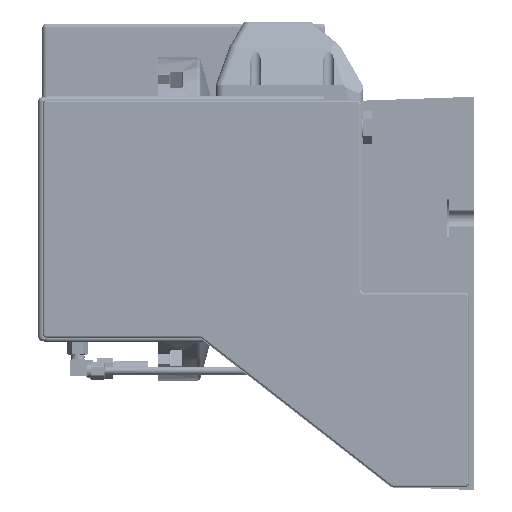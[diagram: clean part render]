
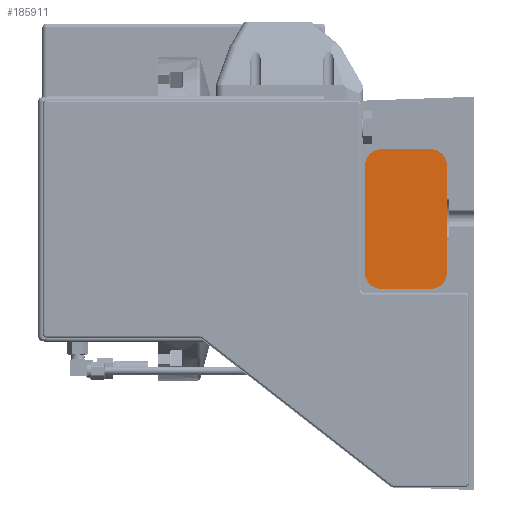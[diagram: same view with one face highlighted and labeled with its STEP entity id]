
A CAD part, left-side view. The second image highlights one B-rep face of the part: STEP entity #185911.
In plain terms, the highlighted planar face has unit normal (-1, 0, 0).
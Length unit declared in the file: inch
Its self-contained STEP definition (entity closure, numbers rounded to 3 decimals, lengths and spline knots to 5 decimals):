
#380 = AXIS2_PLACEMENT_3D ( 'NONE', #239387, #143289, #181561 ) ;
#2601 = VERTEX_POINT ( 'NONE', #134576 ) ;
#7344 = LINE ( 'NONE', #79947, #23149 ) ;
#17440 = DIRECTION ( 'NONE',  ( 0., 0., 1. ) ) ;
#18062 = DIRECTION ( 'NONE',  ( 0., 0., 1. ) ) ;
#18985 = FACE_OUTER_BOUND ( 'NONE', #129851, .T. ) ;
#22696 = EDGE_CURVE ( 'Defeatured_1_154+Defeatured_1_157+Defeatured_1_158+Defeatured_1_159', #168143, #240522, #41514, .T. ) ;
#23149 = VECTOR ( 'NONE', #178576, 39.37008 ) ;
#24886 = EDGE_CURVE ( 'Defeatured_1_157+Defeatured_1_160+Defeatured_1_156+Defeatured_1_155', #129715, #113461, #224940, .T. ) ;
#27447 = AXIS2_PLACEMENT_3D ( 'NONE', #108828, #184190, #182963 ) ;
#30796 = EDGE_CURVE ( 'Defeatured_1_157+Defeatured_1_158+Defeatured_1_154+Defeatured_1_153', #168143, #41462, #31749, .T. ) ;
#31749 = CIRCLE ( 'NONE', #232476, 0.5 ) ;
#36477 = CARTESIAN_POINT ( 'NONE',  ( -15.75, 1.31, 1.625 ) ) ;
#36494 = EDGE_CURVE ( 'Defeatured_1_156+Defeatured_1_157+Defeatured_1_160+Defeatured_1_161', #129715, #51300, #220821, .T. ) ;
#37114 = CARTESIAN_POINT ( 'NONE',  ( -15.75, 1.31, 2.125 ) ) ;
#40839 = AXIS2_PLACEMENT_3D ( 'NONE', #128340, #204705, #17440 ) ;
#41462 = VERTEX_POINT ( 'NONE', #37114 ) ;
#41514 = LINE ( 'NONE', #116601, #169406 ) ;
#51300 = VERTEX_POINT ( 'NONE', #223327 ) ;
#52222 = PLANE ( 'NONE',  #27447 ) ;
#53549 = EDGE_CURVE ( 'Defeatured_1_155+Defeatured_1_157+Defeatured_1_159+Defeatured_1_160', #2601, #113461, #7344, .T. ) ;
#57334 = EDGE_CURVE ( 'Defeatured_1_157+Defeatured_1_159+Defeatured_1_155+Defeatured_1_154', #2601, #240522, #131269, .T. ) ;
#58203 = VECTOR ( 'NONE', #74927, 39.37008 ) ;
#70798 = ORIENTED_EDGE ( 'NONE', *, *, #22696, .F. ) ;
#74621 = VECTOR ( 'NONE', #165304, 39.37008 ) ;
#74927 = DIRECTION ( 'NONE',  ( 0., 0., 1. ) ) ;
#79947 = CARTESIAN_POINT ( 'NONE',  ( -15.75, 3.31, -2.125 ) ) ;
#96033 = ORIENTED_EDGE ( 'NONE', *, *, #30796, .T. ) ;
#108828 = CARTESIAN_POINT ( 'NONE',  ( -15.75, 0.81, 2.125 ) ) ;
#111694 = DIRECTION ( 'NONE',  ( 0., 0., -1. ) ) ;
#113461 = VERTEX_POINT ( 'NONE', #121901 ) ;
#116601 = CARTESIAN_POINT ( 'NONE',  ( -15.75, 0.81, 2.125 ) ) ;
#116953 = CARTESIAN_POINT ( 'NONE',  ( -15.75, 3.31, -1.625 ) ) ;
#121901 = CARTESIAN_POINT ( 'NONE',  ( -15.75, 2.81, -2.125 ) ) ;
#125872 = CARTESIAN_POINT ( 'NONE',  ( -15.75, 3.31, 2.125 ) ) ;
#126843 = CARTESIAN_POINT ( 'NONE',  ( -15.75, 0.81, 1.625 ) ) ;
#128340 = CARTESIAN_POINT ( 'NONE',  ( -15.75, 1.31, -1.625 ) ) ;
#129715 = VERTEX_POINT ( 'NONE', #116953 ) ;
#129851 = EDGE_LOOP ( 'NONE', ( #70798, #96033, #166619, #173775, #238005, #189602, #141177, #218114 ) ) ;
#131269 = CIRCLE ( 'NONE', #40839, 0.5 ) ;
#132967 = CARTESIAN_POINT ( 'NONE',  ( -15.75, 3.31, 2.125 ) ) ;
#134576 = CARTESIAN_POINT ( 'NONE',  ( -15.75, 1.31, -2.125 ) ) ;
#138045 = CIRCLE ( 'NONE', #380, 0.5 ) ;
#141177 = ORIENTED_EDGE ( 'NONE', *, *, #53549, .F. ) ;
#143289 = DIRECTION ( 'NONE',  ( -1., 0., 0. ) ) ;
#149830 = DIRECTION ( 'NONE',  ( 0., 0., 1. ) ) ;
#165304 = DIRECTION ( 'NONE',  ( 0., -1., 0. ) ) ;
#165923 = CARTESIAN_POINT ( 'NONE',  ( -15.75, 2.81, 2.125 ) ) ;
#166619 = ORIENTED_EDGE ( 'NONE', *, *, #180157, .F. ) ;
#168143 = VERTEX_POINT ( 'NONE', #126843 ) ;
#169406 = VECTOR ( 'NONE', #111694, 39.37008 ) ;
#172050 = DIRECTION ( 'NONE',  ( -1., 0., 0. ) ) ;
#173775 = ORIENTED_EDGE ( 'NONE', *, *, #221220, .T. ) ;
#176159 = VERTEX_POINT ( 'NONE', #165923 ) ;
#178576 = DIRECTION ( 'NONE',  ( 0., 1., 0. ) ) ;
#180157 = EDGE_CURVE ( 'Defeatured_1_153+Defeatured_1_157+Defeatured_1_161+Defeatured_1_158', #176159, #41462, #217127, .T. ) ;
#181561 = DIRECTION ( 'NONE',  ( 0., 0., 1. ) ) ;
#182963 = DIRECTION ( 'NONE',  ( 0., 0., -1. ) ) ;
#184190 = DIRECTION ( 'NONE',  ( -1., 0., 0. ) ) ;
#185911 = ADVANCED_FACE ( 'Defeatured_1_157', ( #18985 ), #52222, .T. ) ;
#186886 = DIRECTION ( 'NONE',  ( -1., 0., 0. ) ) ;
#189602 = ORIENTED_EDGE ( 'NONE', *, *, #24886, .T. ) ;
#204705 = DIRECTION ( 'NONE',  ( -1., 0., 0. ) ) ;
#207991 = CARTESIAN_POINT ( 'NONE',  ( -15.75, 0.81, -1.625 ) ) ;
#213120 = AXIS2_PLACEMENT_3D ( 'NONE', #222666, #186886, #18062 ) ;
#217127 = LINE ( 'NONE', #125872, #74621 ) ;
#218114 = ORIENTED_EDGE ( 'NONE', *, *, #57334, .T. ) ;
#220821 = LINE ( 'NONE', #132967, #58203 ) ;
#221220 = EDGE_CURVE ( 'Defeatured_1_157+Defeatured_1_161+Defeatured_1_153+Defeatured_1_156', #176159, #51300, #138045, .T. ) ;
#222666 = CARTESIAN_POINT ( 'NONE',  ( -15.75, 2.81, -1.625 ) ) ;
#223327 = CARTESIAN_POINT ( 'NONE',  ( -15.75, 3.31, 1.625 ) ) ;
#224940 = CIRCLE ( 'NONE', #213120, 0.5 ) ;
#232476 = AXIS2_PLACEMENT_3D ( 'NONE', #36477, #172050, #149830 ) ;
#238005 = ORIENTED_EDGE ( 'NONE', *, *, #36494, .F. ) ;
#239387 = CARTESIAN_POINT ( 'NONE',  ( -15.75, 2.81, 1.625 ) ) ;
#240522 = VERTEX_POINT ( 'NONE', #207991 ) ;
